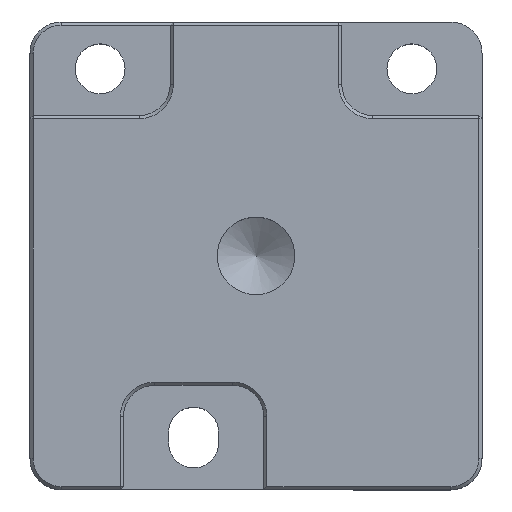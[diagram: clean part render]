
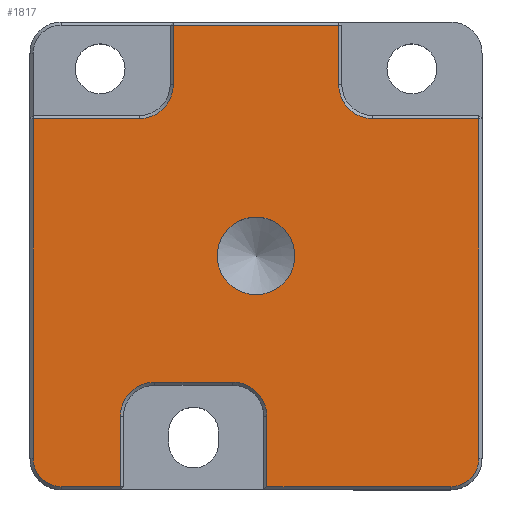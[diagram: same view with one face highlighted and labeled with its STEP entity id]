
A CAD part, top view. The second image highlights one B-rep face of the part: STEP entity #1817.
In plain terms, the highlighted planar face has unit normal (0, 0, 1).
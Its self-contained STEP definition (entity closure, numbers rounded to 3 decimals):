
#218=CARTESIAN_POINT('',(2.489,0.0,10.0));
#219=VERTEX_POINT('',#218);
#220=CARTESIAN_POINT('',(0.0,0.0,10.0));
#221=DIRECTION('',(0.0,0.0,-1.0));
#222=DIRECTION('',(1.0,0.0,0.0));
#223=AXIS2_PLACEMENT_3D('',#220,#221,#222);
#224=CIRCLE('',#223,2.489);
#225=EDGE_CURVE('',#219,#219,#224,.T.);
#733=CARTESIAN_POINT('',(14.3,8.8,10.0));
#734=VERTEX_POINT('',#733);
#771=CARTESIAN_POINT('',(5.3,14.8,10.0));
#772=VERTEX_POINT('',#771);
#803=CARTESIAN_POINT('',(-5.3,14.8,10.0));
#804=VERTEX_POINT('',#803);
#825=CARTESIAN_POINT('',(12.5,-14.8,10.0));
#826=VERTEX_POINT('',#825);
#833=CARTESIAN_POINT('',(0.7,-14.8,10.0));
#834=VERTEX_POINT('',#833);
#835=CARTESIAN_POINT('',(12.5,-14.8,10.0));
#836=DIRECTION('',(-1.0,0.0,0.0));
#837=VECTOR('',#836,11.8);
#838=LINE('',#835,#837);
#839=EDGE_CURVE('',#826,#834,#838,.T.);
#866=CARTESIAN_POINT('',(-14.3,8.8,10.0));
#867=VERTEX_POINT('',#866);
#896=CARTESIAN_POINT('',(-8.7,-14.8,10.0));
#897=VERTEX_POINT('',#896);
#920=CARTESIAN_POINT('',(-8.7,-10.3,10.0));
#921=VERTEX_POINT('',#920);
#928=CARTESIAN_POINT('',(-8.7,-10.3,10.0));
#929=DIRECTION('',(0.0,-1.0,0.0));
#930=VECTOR('',#929,4.5);
#931=LINE('',#928,#930);
#932=EDGE_CURVE('',#921,#897,#931,.T.);
#949=CARTESIAN_POINT('',(-12.5,-14.8,10.0));
#950=VERTEX_POINT('',#949);
#959=CARTESIAN_POINT('',(-8.7,-14.8,10.0));
#960=DIRECTION('',(-1.0,0.0,0.0));
#961=VECTOR('',#960,3.8);
#962=LINE('',#959,#961);
#963=EDGE_CURVE('',#897,#950,#962,.T.);
#999=CARTESIAN_POINT('',(-6.5,-8.1,10.0));
#1000=VERTEX_POINT('',#999);
#1007=CARTESIAN_POINT('',(-6.5,-10.3,10.0));
#1008=DIRECTION('',(0.0,0.0,1.));
#1009=DIRECTION('',(-0.707,0.707,0.0));
#1010=AXIS2_PLACEMENT_3D('',#1007,#1008,#1009);
#1011=CIRCLE('',#1010,2.2);
#1012=EDGE_CURVE('',#1000,#921,#1011,.T.);
#1030=CARTESIAN_POINT('',(-14.3,-13.,10.0));
#1031=VERTEX_POINT('',#1030);
#1048=CARTESIAN_POINT('',(-12.5,-13.0,10.0));
#1049=DIRECTION('',(0.0,0.0,-1.));
#1050=DIRECTION('',(-0.707,-0.707,0.0));
#1051=AXIS2_PLACEMENT_3D('',#1048,#1049,#1050);
#1052=CIRCLE('',#1051,1.8);
#1053=EDGE_CURVE('',#950,#1031,#1052,.T.);
#1065=CARTESIAN_POINT('',(-1.5,-8.1,10.0));
#1066=VERTEX_POINT('',#1065);
#1073=CARTESIAN_POINT('',(-1.5,-8.1,10.0));
#1074=DIRECTION('',(-1.0,0.0,0.0));
#1075=VECTOR('',#1074,5.);
#1076=LINE('',#1073,#1075);
#1077=EDGE_CURVE('',#1066,#1000,#1076,.T.);
#1102=CARTESIAN_POINT('',(-14.3,-13.,10.0));
#1103=DIRECTION('',(0.0,1.0,0.0));
#1104=VECTOR('',#1103,21.8);
#1105=LINE('',#1102,#1104);
#1106=EDGE_CURVE('',#1031,#867,#1105,.T.);
#1118=CARTESIAN_POINT('',(0.7,-10.3,10.0));
#1119=VERTEX_POINT('',#1118);
#1126=CARTESIAN_POINT('',(-1.5,-10.3,10.0));
#1127=DIRECTION('',(0.0,0.0,1.));
#1128=DIRECTION('',(0.707,0.707,0.0));
#1129=AXIS2_PLACEMENT_3D('',#1126,#1127,#1128);
#1130=CIRCLE('',#1129,2.2);
#1131=EDGE_CURVE('',#1119,#1066,#1130,.T.);
#1180=CARTESIAN_POINT('',(-7.5,8.8,10.0));
#1181=VERTEX_POINT('',#1180);
#1197=CARTESIAN_POINT('',(-14.3,8.8,10.0));
#1198=DIRECTION('',(1.0,0.0,0.0));
#1199=VECTOR('',#1198,6.8);
#1200=LINE('',#1197,#1199);
#1201=EDGE_CURVE('',#867,#1181,#1200,.T.);
#1211=CARTESIAN_POINT('',(0.7,-14.8,10.0));
#1212=DIRECTION('',(0.0,1.0,0.0));
#1213=VECTOR('',#1212,4.5);
#1214=LINE('',#1211,#1213);
#1215=EDGE_CURVE('',#834,#1119,#1214,.T.);
#1264=CARTESIAN_POINT('',(-5.3,11.,10.0));
#1265=VERTEX_POINT('',#1264);
#1282=CARTESIAN_POINT('',(-7.5,11.,10.0));
#1283=DIRECTION('',(0.0,0.0,1.));
#1284=DIRECTION('',(0.707,-0.707,0.0));
#1285=AXIS2_PLACEMENT_3D('',#1282,#1283,#1284);
#1286=CIRCLE('',#1285,2.2);
#1287=EDGE_CURVE('',#1181,#1265,#1286,.T.);
#1331=CARTESIAN_POINT('',(-5.3,11.,10.0));
#1332=DIRECTION('',(0.0,1.0,0.0));
#1333=VECTOR('',#1332,3.8);
#1334=LINE('',#1331,#1333);
#1335=EDGE_CURVE('',#1265,#804,#1334,.T.);
#1352=CARTESIAN_POINT('',(14.3,-13.,10.0));
#1353=VERTEX_POINT('',#1352);
#1360=CARTESIAN_POINT('',(12.5,-13.,10.0));
#1361=DIRECTION('',(0.0,0.0,-1.));
#1362=DIRECTION('',(0.707,-0.707,0.0));
#1363=AXIS2_PLACEMENT_3D('',#1360,#1361,#1362);
#1364=CIRCLE('',#1363,1.8);
#1365=EDGE_CURVE('',#1353,#826,#1364,.T.);
#1416=CARTESIAN_POINT('',(-5.3,14.8,10.0));
#1417=DIRECTION('',(1.0,0.0,0.0));
#1418=VECTOR('',#1417,10.6);
#1419=LINE('',#1416,#1418);
#1420=EDGE_CURVE('',#804,#772,#1419,.T.);
#1455=CARTESIAN_POINT('',(14.3,8.8,10.0));
#1456=DIRECTION('',(0.0,-1.0,0.0));
#1457=VECTOR('',#1456,21.8);
#1458=LINE('',#1455,#1457);
#1459=EDGE_CURVE('',#734,#1353,#1458,.T.);
#1500=CARTESIAN_POINT('',(5.3,11.,10.0));
#1501=VERTEX_POINT('',#1500);
#1517=CARTESIAN_POINT('',(5.3,14.8,10.0));
#1518=DIRECTION('',(0.0,-1.0,0.0));
#1519=VECTOR('',#1518,3.8);
#1520=LINE('',#1517,#1519);
#1521=EDGE_CURVE('',#772,#1501,#1520,.T.);
#1557=CARTESIAN_POINT('',(7.5,8.8,10.0));
#1558=VERTEX_POINT('',#1557);
#1565=CARTESIAN_POINT('',(7.5,8.8,10.0));
#1566=DIRECTION('',(1.0,0.0,0.0));
#1567=VECTOR('',#1566,6.8);
#1568=LINE('',#1565,#1567);
#1569=EDGE_CURVE('',#1558,#734,#1568,.T.);
#1595=CARTESIAN_POINT('',(7.5,11.,10.0));
#1596=DIRECTION('',(0.0,0.0,1.0));
#1597=DIRECTION('',(-0.707,-0.707,0.0));
#1598=AXIS2_PLACEMENT_3D('',#1595,#1596,#1597);
#1599=CIRCLE('',#1598,2.2);
#1600=EDGE_CURVE('',#1501,#1558,#1599,.T.);
#1789=CARTESIAN_POINT('',(0.,0.,10.0));
#1790=DIRECTION('',(0.0,0.0,1.0));
#1791=DIRECTION('',(1.0,0.0,0.0));
#1792=AXIS2_PLACEMENT_3D('',#1789,#1790,#1791);
#1793=PLANE('',#1792);
#1794=ORIENTED_EDGE('',*,*,#932,.F.);
#1795=ORIENTED_EDGE('',*,*,#1012,.F.);
#1796=ORIENTED_EDGE('',*,*,#1077,.F.);
#1797=ORIENTED_EDGE('',*,*,#1131,.F.);
#1798=ORIENTED_EDGE('',*,*,#1215,.F.);
#1799=ORIENTED_EDGE('',*,*,#839,.F.);
#1800=ORIENTED_EDGE('',*,*,#1365,.F.);
#1801=ORIENTED_EDGE('',*,*,#1459,.F.);
#1802=ORIENTED_EDGE('',*,*,#1569,.F.);
#1803=ORIENTED_EDGE('',*,*,#1600,.F.);
#1804=ORIENTED_EDGE('',*,*,#1521,.F.);
#1805=ORIENTED_EDGE('',*,*,#1420,.F.);
#1806=ORIENTED_EDGE('',*,*,#1335,.F.);
#1807=ORIENTED_EDGE('',*,*,#1287,.F.);
#1808=ORIENTED_EDGE('',*,*,#1201,.F.);
#1809=ORIENTED_EDGE('',*,*,#1106,.F.);
#1810=ORIENTED_EDGE('',*,*,#1053,.F.);
#1811=ORIENTED_EDGE('',*,*,#963,.F.);
#1812=EDGE_LOOP('',(#1794,#1795,#1796,#1797,#1798,#1799,#1800,#1801,#1802,#1803,#1804,#1805,#1806,#1807,#1808,#1809,#1810,#1811));
#1813=FACE_OUTER_BOUND('',#1812,.T.);
#1814=ORIENTED_EDGE('',*,*,#225,.T.);
#1815=EDGE_LOOP('',(#1814));
#1816=FACE_BOUND('',#1815,.T.);
#1817=ADVANCED_FACE('',(#1813,#1816),#1793,.T.);
